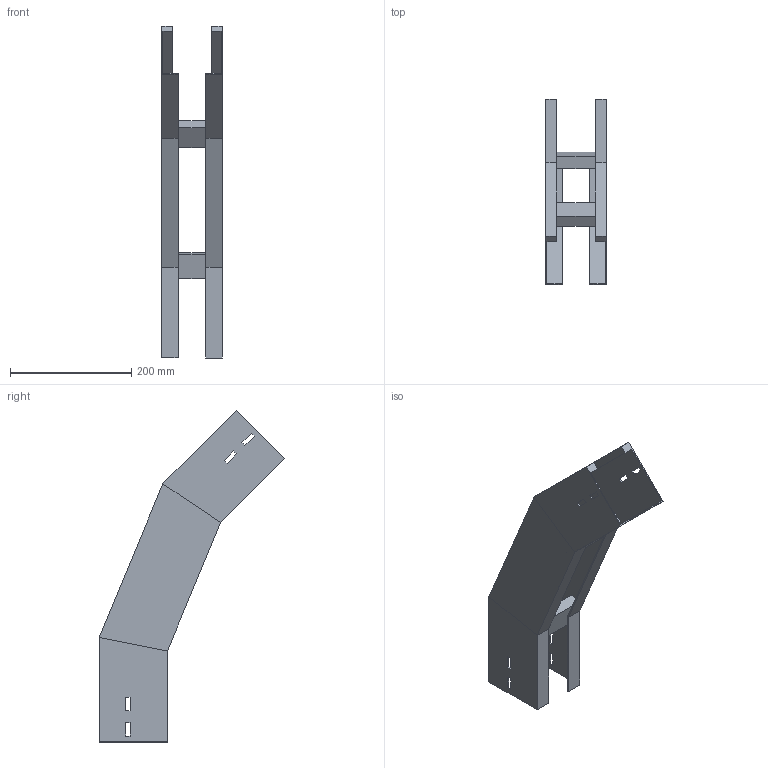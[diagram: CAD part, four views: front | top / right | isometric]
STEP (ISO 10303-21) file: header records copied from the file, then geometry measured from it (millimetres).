
FILE_DESCRIPTION (( 'STEP AP214' ), '1' );
FILE_NAME ('A2_34B3J100.step', '2025-02-21T14:53:05', ( '' ), ( '' ), 'SwSTEP 2.0', 'SolidWorks 2023', '' );
FILE_SCHEMA (( 'AUTOMOTIVE_DESIGN' ));
Length unit declared in the file: millimetre
Products named in the file (3): A2_34B3J100; TRAVERSINO_100; LONGH.DISCESA_45°_H112.5_R300
Assembly tree (5 placements, depth 2):
  A2_34B3J100
    LONGH.DISCESA_45°_H112.5_R300  x2
    TRAVERSINO_100  x3
Bounding box: 100 x 306.58 x 548.11 mm (x, y, z)
Volume: 778594.3 mm3; surface area: 395700.6 mm2
Topology: 5 solids, 5 shells, 102 faces, 244 edges, 152 vertices
Faces by surface type: plane 102
Entity records: 1480 total; most frequent: CARTESIAN_POINT 244, ORIENTED_EDGE 232, DIRECTION 228, LINE 116, EDGE_CURVE 116, VECTOR 116, VERTEX_POINT 72, AXIS2_PLACEMENT_3D 56
